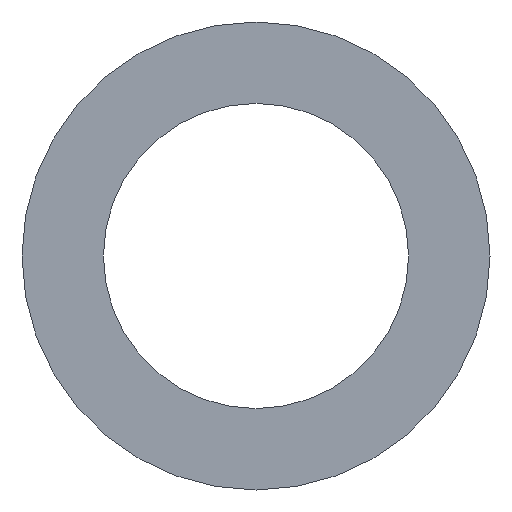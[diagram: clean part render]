
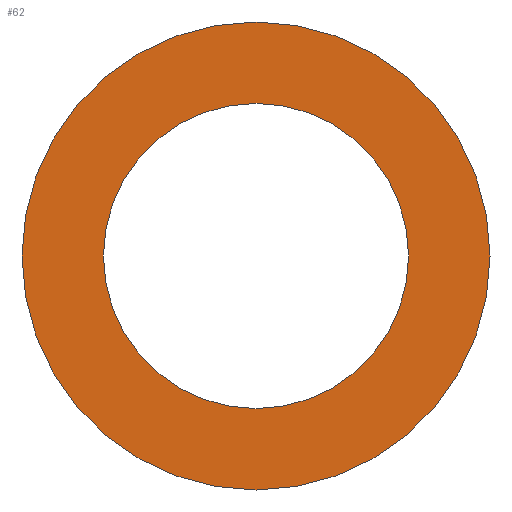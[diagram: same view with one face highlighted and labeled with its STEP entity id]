
A CAD part, front view. The second image highlights one B-rep face of the part: STEP entity #62.
In plain terms, the highlighted planar face has unit normal (0, -1, 0).
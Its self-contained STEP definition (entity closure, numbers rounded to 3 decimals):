
#20=PLANE('',#83);
#26=ORIENTED_EDGE('',*,*,#30,.T.);
#27=ORIENTED_EDGE('',*,*,#32,.F.);
#30=EDGE_CURVE('',#34,#34,#38,.T.);
#32=EDGE_CURVE('',#36,#36,#40,.T.);
#34=VERTEX_POINT('',#106);
#36=VERTEX_POINT('',#111);
#38=CIRCLE('',#78,89.);
#40=CIRCLE('',#81,136.5);
#46=EDGE_LOOP('',(#26));
#47=EDGE_LOOP('',(#27));
#54=FACE_BOUND('',#46,.T.);
#55=FACE_BOUND('',#47,.T.);
#62=ADVANCED_FACE('',(#54,#55),#20,.F.);
#78=AXIS2_PLACEMENT_3D('',#105,#89,#90);
#81=AXIS2_PLACEMENT_3D('',#110,#95,#96);
#83=AXIS2_PLACEMENT_3D('',#114,#99,#100);
#89=DIRECTION('',(0.,1.,0.));
#90=DIRECTION('',(1.,0.,0.));
#95=DIRECTION('',(0.,1.,0.));
#96=DIRECTION('',(1.,0.,0.));
#99=DIRECTION('',(0.,1.,0.));
#100=DIRECTION('',(0.,0.,1.));
#105=CARTESIAN_POINT('',(0.,-1.5,0.));
#106=CARTESIAN_POINT('',(89.,-1.5,0.));
#110=CARTESIAN_POINT('',(0.,-1.5,0.));
#111=CARTESIAN_POINT('',(136.5,-1.5,0.));
#114=CARTESIAN_POINT('',(0.,-1.5,0.));
